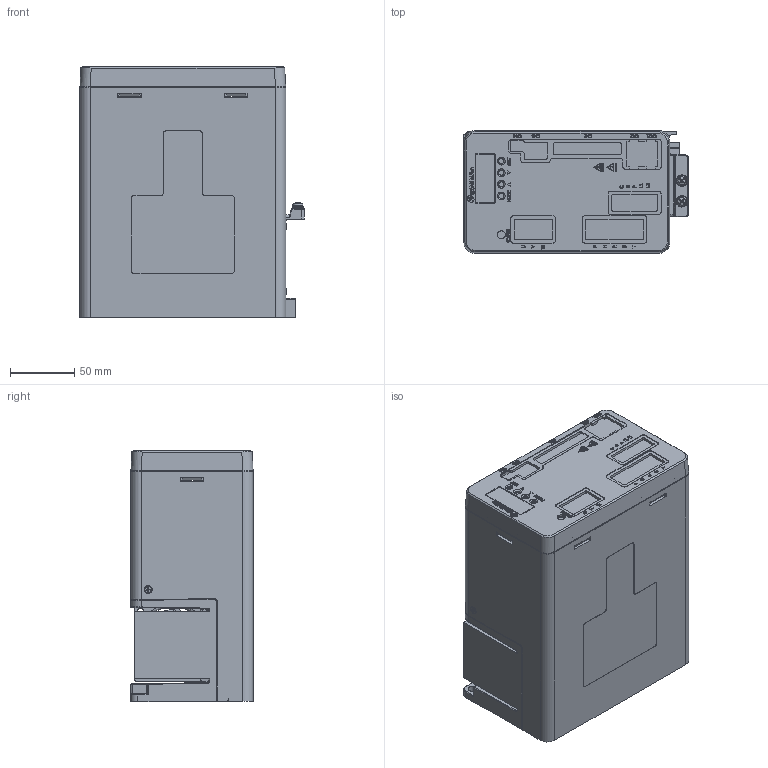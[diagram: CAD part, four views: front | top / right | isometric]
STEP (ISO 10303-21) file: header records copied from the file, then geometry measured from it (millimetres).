
FILE_DESCRIPTION((''),'2;1');
FILE_NAME('C:\Documents and Settings\11254\桌面\SDH-150-350A2_3D.stp','2015-01-22T16:16:16',('11254'),(''),'Autodesk Inventor 2008','Autodesk Inventor 2008','');
FILE_SCHEMA(('AUTOMOTIVE_DESIGN { 1 0 10303 214 1 1 1 1 }'));
Length unit declared in the file: millimetre
Products named in the file (1): 零件5
Bounding box: 174.7 x 95 x 195.5 mm (x, y, z)
Surface area: 328057.7 mm2
Topology: 4 solids, 5 shells, 5384 faces, 15213 edges, 9918 vertices
Faces by surface type: plane 3916, cylinder 692, bspline 563, torus 92, cone 84, sphere 37
Full cylindrical faces by diameter (mm): 0.5 x3, 1.65 x16, 2.4 x5, 3 x2, 3.571 x2, 3.621 x2, 4 x4, 4.3 x12, 5.2 x2, 6.1 x1, 6.2 x1, 9 x4, 20 x1, 33 x1, 56 x1
Entity records: 193795 total; most frequent: CARTESIAN_POINT 52598, ORIENTED_EDGE 29880, DIRECTION 25370, EDGE_CURVE 14940, VECTOR 11944, LINE 11944, VERTEX_POINT 9833, AXIS2_PLACEMENT_3D 6713
